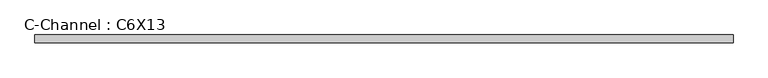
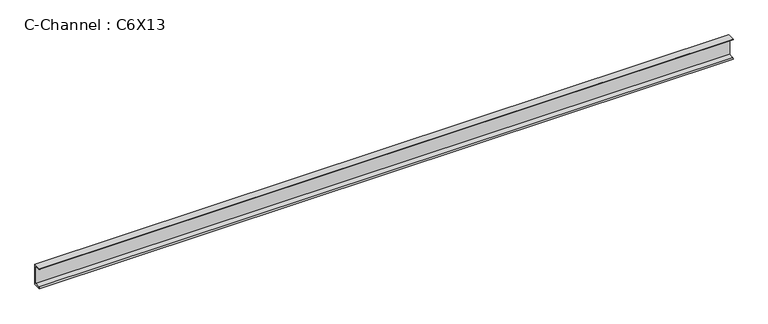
"""IFC4 building model written with IfcOpenShell, lengths in millimetres: beam geometry, C-Channel : C6X13."""

from ifc_helpers import new_model, si_unit, point, frame, frame_2d, origin, place, context, project, spatial, polyline, circle_curve, trimmed, segment, composite_curve, outline, extrude, source, transform, mapped, element, save


def c_channel_c6x13_1b19ddb2(model_context):
    return source(origin(), model_context, "Body", "SweptSolid", [
        extrude(outline(composite_curve([segment(polyline([(13.0556, 76.2), (13.0556, -76.2), (-41.8084, -76.2)]), True, "CONTINUOUS"), segment(trimmed(circle_curve(frame_2d((-33.0962, -76.2)), 8.7122), [point((-41.8084, -76.2))], [point((-33.0962, -67.4878))], False, "CARTESIAN"), True, "CONTINUOUS"), segment(polyline([(-33.0962, -67.4878), (1.9558, -61.9361086), (1.9558, 61.9361086), (-33.0962, 67.4878)]), True, "CONTINUOUS"), segment(trimmed(circle_curve(frame_2d((-33.0962, 76.2)), 8.7122), [point((-33.0962, 67.4878))], [point((-41.8084, 76.2))], False, "CARTESIAN"), True, "CONTINUOUS"), segment(polyline([(-41.8084, 76.2), (13.0556, 76.2)]), True, "CONTINUOUS")], self_intersect=False)), frame((-2487.3009793, 0.0, 0.0), z_axis=(1.0, 0.0, 0.0), x_axis=(0.0, 1.0, 0.0)), (0.0, 0.0, 1.0), 4974.5861507),
    ])


if __name__ == "__main__":
    model = new_model("IFC4")
    model_context = context("Model", 3, world=origin())
    ifc_project = project(units=[si_unit("LENGTHUNIT", "METRE", prefix="MILLI")], contexts=[model_context])
    site = spatial("IfcSite", under=ifc_project)
    building = spatial("IfcBuilding", under=site)
    placement = place(None, origin())
    c_channel_c6x13_shape = c_channel_c6x13_1b19ddb2(model_context)
    element("IfcBeam", 1, ObjectType="C-Channel : C6X13", at=placement, inside=building, context=model_context, shape_type="MappedRepresentation", body=[
        mapped(c_channel_c6x13_shape, transform((0.0, 0.0, 0.0), x_axis=(1.0, 0.0, 0.0), y_axis=(0.0, 1.0, 0.0), z_axis=(0.0, 0.0, 1.0))),
    ])
    save(model, "model.ifc")
